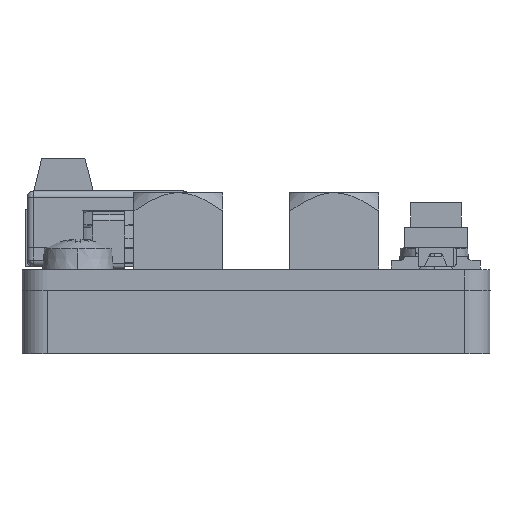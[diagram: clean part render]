
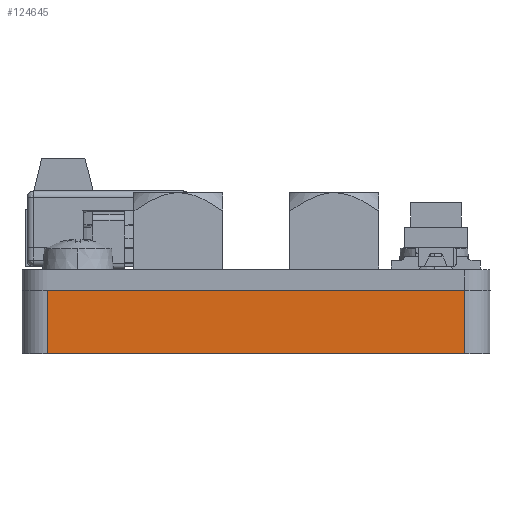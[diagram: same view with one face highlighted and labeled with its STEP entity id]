
A CAD part, left-side view. The second image highlights one B-rep face of the part: STEP entity #124645.
In plain terms, the highlighted planar face has unit normal (-1, 0, 0).
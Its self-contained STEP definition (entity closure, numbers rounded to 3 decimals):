
#1202 = EDGE_CURVE ( 'NONE', #110588, #16347, #68351, .T. ) ;
#3380 = CARTESIAN_POINT ( 'NONE',  ( 0.05, 2., -6.6 ) ) ;
#5075 = ORIENTED_EDGE ( 'NONE', *, *, #88244, .T. ) ;
#6464 = ORIENTED_EDGE ( 'NONE', *, *, #27225, .F. ) ;
#16347 = VERTEX_POINT ( 'NONE', #73899 ) ;
#20675 = PLANE ( 'NONE',  #43196 ) ;
#26285 = DIRECTION ( 'NONE',  ( 0., 0., 1. ) ) ;
#27225 = EDGE_CURVE ( 'NONE', #16347, #57675, #62913, .T. ) ;
#33562 = VERTEX_POINT ( 'NONE', #46697 ) ;
#33993 = VECTOR ( 'NONE', #79873, 1000. ) ;
#36540 = CARTESIAN_POINT ( 'NONE',  ( 0.05, 34.8, -6.6 ) ) ;
#41592 = CARTESIAN_POINT ( 'NONE',  ( 0.05, 2., -6.6 ) ) ;
#43196 = AXIS2_PLACEMENT_3D ( 'NONE', #41592, #112454, #51819 ) ;
#46697 = CARTESIAN_POINT ( 'NONE',  ( 0.05, 2., -1.6 ) ) ;
#51819 = DIRECTION ( 'NONE',  ( 0., -1., 0. ) ) ;
#55958 = CARTESIAN_POINT ( 'NONE',  ( 0.05, 34.8, -6.6 ) ) ;
#57675 = VERTEX_POINT ( 'NONE', #124192 ) ;
#61015 = LINE ( 'NONE', #90069, #33993 ) ;
#62913 = LINE ( 'NONE', #36540, #80345 ) ;
#65166 = VECTOR ( 'NONE', #116661, 1000. ) ;
#67921 = VECTOR ( 'NONE', #112934, 1000. ) ;
#68351 = LINE ( 'NONE', #55958, #65166 ) ;
#73899 = CARTESIAN_POINT ( 'NONE',  ( 0.05, 34.8, -6.6 ) ) ;
#76110 = ORIENTED_EDGE ( 'NONE', *, *, #1202, .F. ) ;
#79596 = EDGE_CURVE ( 'NONE', #33562, #57675, #61015, .T. ) ;
#79873 = DIRECTION ( 'NONE',  ( 0., 1., 0. ) ) ;
#80345 = VECTOR ( 'NONE', #26285, 1000. ) ;
#88244 = EDGE_CURVE ( 'NONE', #110588, #33562, #124863, .T. ) ;
#90069 = CARTESIAN_POINT ( 'NONE',  ( 0.05, 2., -1.6 ) ) ;
#102743 = CARTESIAN_POINT ( 'NONE',  ( 0.05, 2., -6.6 ) ) ;
#110588 = VERTEX_POINT ( 'NONE', #3380 ) ;
#112454 = DIRECTION ( 'NONE',  ( -1., 0., 0. ) ) ;
#112934 = DIRECTION ( 'NONE',  ( 0., 0., 1. ) ) ;
#113388 = ORIENTED_EDGE ( 'NONE', *, *, #79596, .T. ) ;
#116661 = DIRECTION ( 'NONE',  ( 0., 1., 0. ) ) ;
#119354 = FACE_OUTER_BOUND ( 'NONE', #124898, .T. ) ;
#124192 = CARTESIAN_POINT ( 'NONE',  ( 0.05, 34.8, -1.6 ) ) ;
#124645 = ADVANCED_FACE ( 'NONE', ( #119354 ), #20675, .T. ) ;
#124863 = LINE ( 'NONE', #102743, #67921 ) ;
#124898 = EDGE_LOOP ( 'NONE', ( #76110, #5075, #113388, #6464 ) ) ;
